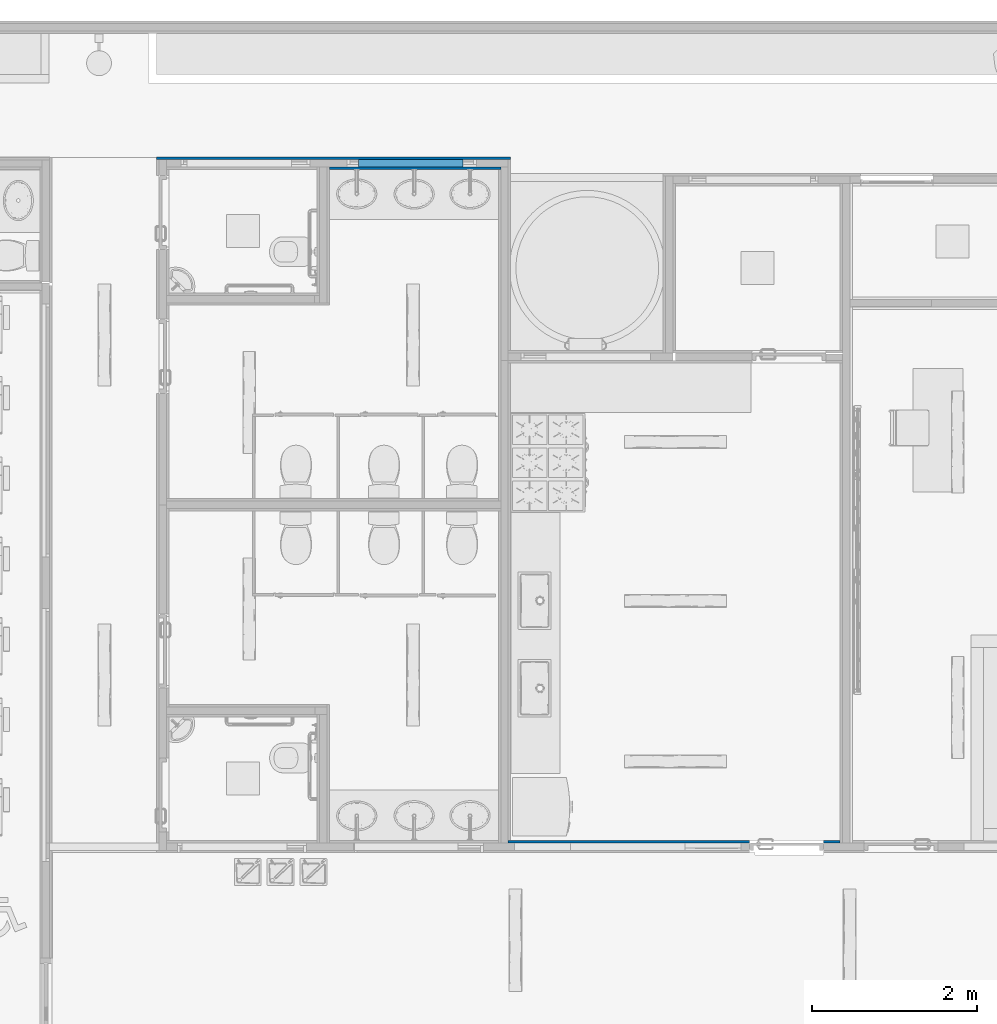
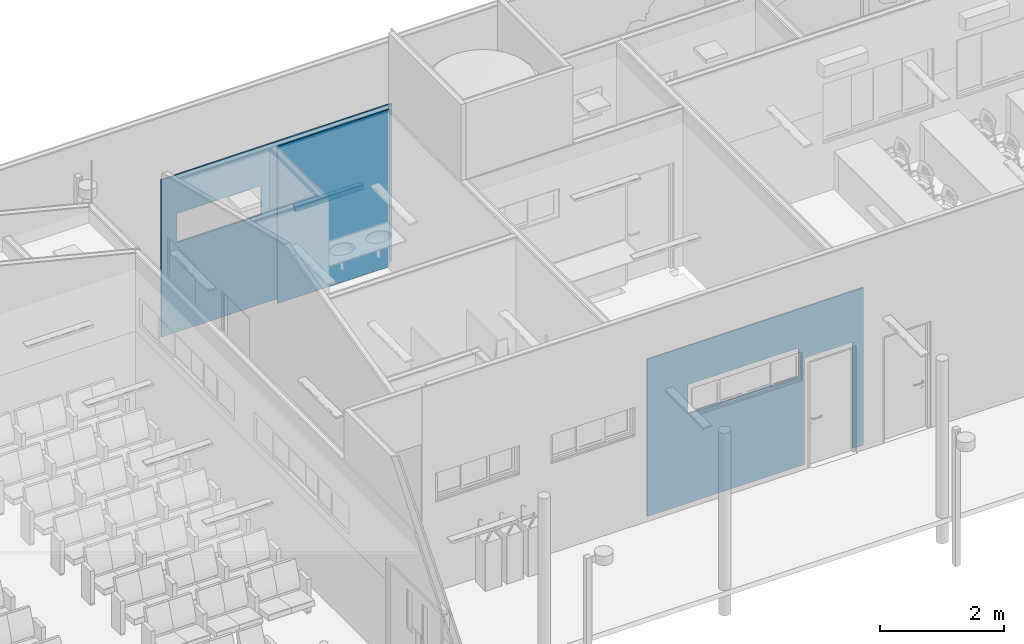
# One storey, part 36 of 155: 4 walls, 8 openings.
"""IFC2X3 building model written with IfcOpenShell, lengths in metres."""

from ifc_helpers import new_model, entity, si_unit, converted_unit, derived_unit, direction, frame, frame_2d, origin, place, context, subcontext, project, spatial, rectangle, extrude, material, layer, layer_set, layer_usage, type_object, element, save


model = new_model("IFC2X3")

# Units and contexts
model_context = context("Model", 3, precision=1e-05, world=origin(), true_north=direction((6.12303176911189e-17, 1.0)))
body_context = subcontext(model_context, "Body", "Model", "MODEL_VIEW")
ifc_project = project(units=[si_unit("LENGTHUNIT", "METRE"), si_unit("AREAUNIT", "SQUARE_METRE"), si_unit("VOLUMEUNIT", "CUBIC_METRE"), converted_unit("PLANEANGLEUNIT", "DEGREE", entity("IfcRatioMeasure", 0.0174532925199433), si_unit("PLANEANGLEUNIT", "RADIAN"), dimensions=[0, 0, 0, 0, 0, 0, 0]), si_unit("MASSUNIT", "GRAM", prefix="KILO"), derived_unit("MASSDENSITYUNIT", [(si_unit("MASSUNIT", "GRAM", prefix="KILO"), 1), (si_unit("LENGTHUNIT", "METRE"), -3)]), si_unit("TIMEUNIT", "SECOND"), si_unit("FREQUENCYUNIT", "HERTZ"), si_unit("THERMODYNAMICTEMPERATUREUNIT", "DEGREE_CELSIUS"), derived_unit("THERMALTRANSMITTANCEUNIT", [(si_unit("MASSUNIT", "GRAM", prefix="KILO"), 1), (si_unit("THERMODYNAMICTEMPERATUREUNIT", "KELVIN"), -1), (si_unit("TIMEUNIT", "SECOND"), -3)]), derived_unit("VOLUMETRICFLOWRATEUNIT", [(si_unit("LENGTHUNIT", "METRE"), 3), (si_unit("TIMEUNIT", "SECOND"), -1)]), si_unit("ELECTRICCURRENTUNIT", "AMPERE"), si_unit("ELECTRICVOLTAGEUNIT", "VOLT"), si_unit("POWERUNIT", "WATT"), si_unit("FORCEUNIT", "NEWTON", prefix="KILO"), si_unit("ILLUMINANCEUNIT", "LUX"), si_unit("LUMINOUSFLUXUNIT", "LUMEN"), si_unit("LUMINOUSINTENSITYUNIT", "CANDELA"), derived_unit("USERDEFINED", [(si_unit("MASSUNIT", "GRAM", prefix="KILO"), -1), (si_unit("LENGTHUNIT", "METRE"), -2), (si_unit("TIMEUNIT", "SECOND"), 3), (si_unit("LUMINOUSFLUXUNIT", "LUMEN"), 1)]), derived_unit("LINEARVELOCITYUNIT", [(si_unit("LENGTHUNIT", "METRE"), 1), (si_unit("TIMEUNIT", "SECOND"), -1)]), si_unit("PRESSUREUNIT", "PASCAL"), derived_unit("USERDEFINED", [(si_unit("LENGTHUNIT", "METRE"), -2), (si_unit("MASSUNIT", "GRAM", prefix="KILO"), 1), (si_unit("TIMEUNIT", "SECOND"), -2)])], contexts=[model_context])

# Site, building, storey
site_placement = place(None, frame((26.9889013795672, -17.5624287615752, 0.0)))
site = spatial("IfcSite", under=ifc_project, at=site_placement, Name="Default", CompositionType="ELEMENT")
building_placement = place(site_placement, origin())
building = spatial("IfcBuilding", under=site, at=building_placement, Name="C. C. L. Monsenhor Antônio Sampaio", CompositionType="ELEMENT")
storey_placement = place(building_placement, frame((0.0, 0.0, 1.19999999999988)))
storey = spatial("IfcBuildingStorey", under=building, at=storey_placement, Name="Nível 1.2", CompositionType="ELEMENT", Elevation=1.19999999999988)

# Walls
ifc_material_1 = material(Name="ALVENARIA")
ifc_layer_1 = layer(ifc_material_1, 0.09)
ifc_layer_set_1 = layer_set([ifc_layer_1], Name="Parede básica:ENucleo parede 15cm")
ifc_layer_usage_1 = layer_usage(ifc_layer_set_1, "AXIS2", "POSITIVE", -0.045)
wall_type_1 = type_object("IfcWallType", Name="Parede básica:ENucleo parede 15cm", PredefinedType="STANDARD", material=ifc_layer_set_1)
wall_1_placement = place(storey_placement, frame((-2.12218754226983, -8.52939236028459, 1.66500000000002)))
element("IfcWallStandardCase", 1, at=wall_1_placement, inside=storey, type_object=wall_type_1, material=ifc_layer_usage_1, Name="Parede básica:ENucleo parede 15cm", ObjectType="Parede básica:ENucleo parede 15cm", context=body_context, shape_type="SweptSolid", body=[
    extrude(rectangle(XDim=1.26999999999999, YDim=0.0900000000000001, at=frame_2d((-5.55111512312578e-17, -5.41233724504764e-16), x_axis=(1.0, 0.0))), frame((0.634999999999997, 0.0, 0.0)), (0.0, 0.0, 1.0), 0.1),
])
ifc_material_2 = material(Name=".CERÂMICA 10x10 BRANCA")
ifc_layer_2 = layer(ifc_material_2, 0.0035)
ifc_material_3 = material(Name="Argamassa Colante")
ifc_layer_3 = layer(ifc_material_3, 0.02)
ifc_material_4 = material(Name="4")
ifc_layer_4 = layer(ifc_material_4, 0.0015)
ifc_material_5 = material(Name="3")
ifc_layer_5 = layer(ifc_material_5, 0.005)
ifc_layer_set_2 = layer_set([ifc_layer_2, ifc_layer_3, ifc_layer_4, ifc_layer_5], Name="Parede básica:ECeramica branca 10x10cm")
ifc_layer_usage_2 = layer_usage(ifc_layer_set_2, "AXIS2", "POSITIVE", -0.015)
wall_type_2 = type_object("IfcWallType", Name="Parede básica:ECeramica branca 10x10cm", PredefinedType="STANDARD", material=ifc_layer_set_2)
wall_2_placement = place(storey_placement, frame((-2.47218754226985, -8.58939236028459, 0.0)))
element("IfcWallStandardCase", 2, at=wall_2_placement, inside=storey, type_object=wall_type_2, material=ifc_layer_usage_2, Name="Parede básica:ECeramica branca 10x10cm", ObjectType="Parede básica:ECeramica branca 10x10cm", context=body_context, shape_type="SweptSolid", body=[
    extrude(rectangle(XDim=2.08163525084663, YDim=0.0299999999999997, at=frame_2d((1.04081762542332, 0.0), x_axis=(-1.0, 0.0))), origin(), (0.0, 0.0, 1.0), 3.10000000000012),
])

# Wall, openings
ifc_layer_usage_3 = layer_usage(ifc_layer_set_2, "AXIS2", "POSITIVE", -0.015)
wall_3_placement = place(storey_placement, frame((3.72961597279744, -16.7680663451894, 0.0), z_axis=(0.0, 0.0, 1.0), x_axis=(-1.0, 0.0, 0.0)))
wall_3 = element("IfcWallStandardCase", 3, at=wall_3_placement, inside=storey, type_object=wall_type_2, material=ifc_layer_usage_3, Name="Parede básica:ECeramica branca 10x10cm", ObjectType="Parede básica:ECeramica branca 10x10cm", context=body_context, shape_type="SweptSolid", body=[
    extrude(rectangle(XDim=4.03016826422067, YDim=0.0300000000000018, at=frame_2d((2.01508413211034, -2.60208521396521e-18), x_axis=(-1.0, 0.0))), origin(), (0.0, 0.0, 1.0), 3.10000000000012),
])
opening_1_placement = place(wall_3_placement, origin())
element("IfcOpeningElement", 4, at=opening_1_placement, cuts=wall_3, Name="Parede básica:ECeramica branca 10x10cm", ObjectType="Opening", context=body_context, shape_type="SweptSolid", body=[
    extrude(rectangle(XDim=2.09999999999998, YDim=0.9, at=frame_2d((-3.33066907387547e-16, 0.0), x_axis=(1.0, 0.0))), frame((0.648749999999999, -1.50899999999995, 1.04999999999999), z_axis=(0.0, 1.0, 0.0), x_axis=(0.0, 0.0, 1.0)), (0.0, 0.0, 1.0), 3.048),
])
opening_2_placement = place(wall_3_placement, origin())
element("IfcOpeningElement", 5, at=opening_2_placement, cuts=wall_3, Name="Parede básica:ECeramica branca 10x10cm", ObjectType="Opening", context=body_context, shape_type="SweptSolid", body=[
    extrude(rectangle(XDim=0.570000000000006, YDim=1.56999999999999, at=frame_2d((0.0, 2.77555756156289e-16), x_axis=(0.0, 1.0))), frame((7.26516557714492, -1.50899999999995, 2.05000000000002), z_axis=(0.0, 1.0, 0.0), x_axis=(-1.0, 0.0, 0.0)), (0.0, 0.0, 1.0), 3.048),
])
opening_3_placement = place(wall_3_placement, origin())
element("IfcOpeningElement", 6, at=opening_3_placement, cuts=wall_3, Name="Parede básica:ECeramica branca 10x10cm", ObjectType="Opening", context=body_context, shape_type="SweptSolid", body=[
    extrude(rectangle(XDim=0.570000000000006, YDim=1.56999999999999, at=frame_2d((-1.11022302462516e-16, 2.77555756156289e-16), x_axis=(0.0, 1.0))), frame((5.11516289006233, -1.50899999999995, 2.05000000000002), z_axis=(0.0, 1.0, 0.0), x_axis=(-1.0, 0.0, 0.0)), (0.0, 0.0, 1.0), 3.048),
])
opening_4_placement = place(wall_3_placement, origin())
element("IfcOpeningElement", 7, at=opening_4_placement, cuts=wall_3, Name="Parede básica:ECeramica branca 10x10cm", ObjectType="Opening", context=body_context, shape_type="SweptSolid", body=[
    extrude(rectangle(XDim=0.570000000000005, YDim=2.07, at=frame_2d((5.27355936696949e-16, -1.11022302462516e-16), x_axis=(1.0, 0.0))), frame((2.23875, -1.50899999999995, 2.05000000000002), z_axis=(0.0, 1.0, 0.0), x_axis=(0.0, 0.0, 1.0)), (0.0, 0.0, 1.0), 3.048),
])
opening_5_placement = place(wall_3_placement, origin())
element("IfcOpeningElement", 8, at=opening_5_placement, cuts=wall_3, Name="Parede básica:ECeramica branca 10x10cm", ObjectType="Opening", context=body_context, shape_type="SweptSolid", body=[
    extrude(rectangle(XDim=0.570000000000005, YDim=2.07, at=frame_2d((5.27355936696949e-16, -5.55111512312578e-16), x_axis=(1.0, 0.0))), frame((-6.51000000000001, -1.50899999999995, 2.05000000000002), z_axis=(0.0, 1.0, 0.0), x_axis=(0.0, 0.0, 1.0)), (0.0, 0.0, 1.0), 3.048),
])
opening_6_placement = place(wall_3_placement, origin())
element("IfcOpeningElement", 9, at=opening_6_placement, cuts=wall_3, Name="Parede básica:ECeramica branca 10x10cm", ObjectType="Opening", context=body_context, shape_type="SweptSolid", body=[
    extrude(rectangle(XDim=0.570000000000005, YDim=2.07, at=frame_2d((5.27355936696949e-16, -5.55111512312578e-16), x_axis=(1.0, 0.0))), frame((-4.02, -1.50899999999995, 2.05000000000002), z_axis=(0.0, 1.0, 0.0), x_axis=(0.0, 0.0, 1.0)), (0.0, 0.0, 1.0), 3.048),
])

ifc_material_6 = material(Name="Acabamento amarelo")
ifc_layer_6 = layer(ifc_material_6, 0.0035)
ifc_material_7 = material(Name="Massa corrida")
ifc_layer_7 = layer(ifc_material_7, 0.02)
ifc_layer_8 = layer(ifc_material_4, 0.0015)
ifc_layer_9 = layer(ifc_material_5, 0.005)
ifc_layer_set_3 = layer_set([ifc_layer_6, ifc_layer_7, ifc_layer_8, ifc_layer_9], Name="Parede básica:EPintura amarela")
ifc_layer_usage_4 = layer_usage(ifc_layer_set_3, "AXIS2", "POSITIVE", -0.015)
wall_type_3 = type_object("IfcWallType", Name="Parede básica:EPintura amarela", PredefinedType="STANDARD", material=ifc_layer_set_3)
wall_4_placement = place(storey_placement, frame((-0.270552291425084, -8.46939236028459, 0.0), z_axis=(0.0, 0.0, 1.0), x_axis=(-1.0, 0.0, 0.0)))
wall_4 = element("IfcWallStandardCase", 10, at=wall_4_placement, inside=storey, type_object=wall_type_3, material=ifc_layer_usage_4, Name="Parede básica:EPintura amarela", ObjectType="Parede básica:EPintura amarela", context=body_context, shape_type="SweptSolid", body=[
    extrude(rectangle(XDim=4.3, YDim=0.0299999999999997, at=frame_2d((2.15, 9.97465998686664e-17), x_axis=(-1.0, 0.0))), origin(), (0.0, 0.0, 1.0), 3.10000000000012),
])
opening_7_placement = place(wall_4_placement, origin())
element("IfcOpeningElement", 11, at=opening_7_placement, cuts=wall_4, Name="Parede básica:EPintura amarela", ObjectType="Opening", context=body_context, shape_type="SweptSolid", body=[
    extrude(rectangle(XDim=0.570000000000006, YDim=1.56999999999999, at=frame_2d((0.0, 2.77555756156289e-16), x_axis=(0.0, 1.0))), frame((1.20163525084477, -1.41899999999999, 2.05000000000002), z_axis=(0.0, 1.0, 0.0), x_axis=(-1.0, 0.0, 0.0)), (0.0, 0.0, 1.0), 3.048),
])
opening_8_placement = place(wall_4_placement, origin())
element("IfcOpeningElement", 12, at=opening_8_placement, cuts=wall_4, Name="Parede básica:EPintura amarela", ObjectType="Opening", context=body_context, shape_type="SweptSolid", body=[
    extrude(rectangle(XDim=0.570000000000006, YDim=1.56999999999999, at=frame_2d((0.0, 2.77555756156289e-16), x_axis=(0.0, 1.0))), frame((3.22163525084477, -1.41899999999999, 2.05000000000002), z_axis=(0.0, 1.0, 0.0), x_axis=(-1.0, 0.0, 0.0)), (0.0, 0.0, 1.0), 3.048),
])

save(model, "model.ifc")
